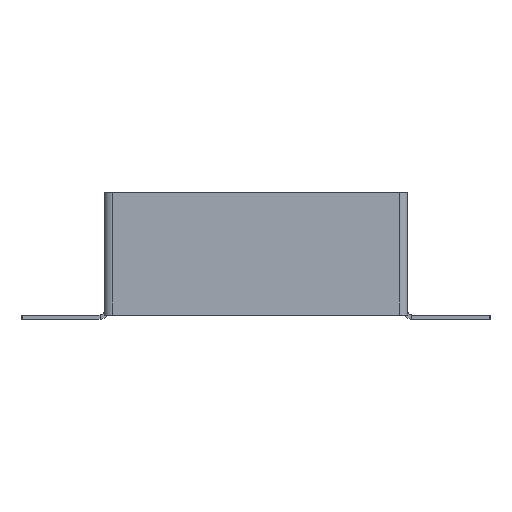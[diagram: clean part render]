
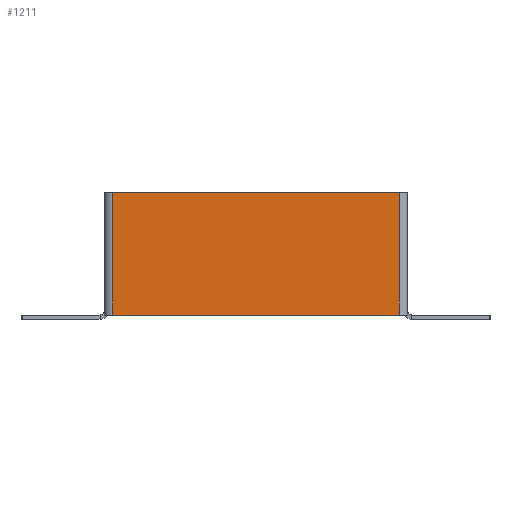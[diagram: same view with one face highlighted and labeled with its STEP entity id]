
A CAD part, front view. The second image highlights one B-rep face of the part: STEP entity #1211.
In plain terms, the highlighted planar face has unit normal (0, -1, 0).
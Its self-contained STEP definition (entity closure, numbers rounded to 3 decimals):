
#148 = AXIS2_PLACEMENT_3D ( 'NONE', #4789, #8238, #3958 ) ;
#1200 = CARTESIAN_POINT ( 'NONE',  ( 68., -2., -58. ) ) ;
#1211 = ADVANCED_FACE ( 'NONE', ( #4407 ), #3245, .F. ) ;
#1270 = CARTESIAN_POINT ( 'NONE',  ( -68., -2., -58. ) ) ;
#1394 = EDGE_CURVE ( 'NONE', #6096, #4338, #2495, .T. ) ;
#1729 = VERTEX_POINT ( 'NONE', #5769 ) ;
#1792 = LINE ( 'NONE', #6799, #6250 ) ;
#2003 = ORIENTED_EDGE ( 'NONE', *, *, #3075, .T. ) ;
#2495 = LINE ( 'NONE', #7109, #6290 ) ;
#3075 = EDGE_CURVE ( 'NONE', #6096, #5180, #3937, .T. ) ;
#3245 = PLANE ( 'NONE',  #148 ) ;
#3937 = LINE ( 'NONE', #1200, #5855 ) ;
#3958 = DIRECTION ( 'NONE',  ( 0., 0., 1. ) ) ;
#4003 = DIRECTION ( 'NONE',  ( 0., 0., 1. ) ) ;
#4037 = LINE ( 'NONE', #5163, #8951 ) ;
#4047 = CARTESIAN_POINT ( 'NONE',  ( 68., -2., -58. ) ) ;
#4338 = VERTEX_POINT ( 'NONE', #1270 ) ;
#4407 = FACE_OUTER_BOUND ( 'NONE', #8865, .T. ) ;
#4789 = CARTESIAN_POINT ( 'NONE',  ( 0., -2., 0. ) ) ;
#5004 = ORIENTED_EDGE ( 'NONE', *, *, #8116, .T. ) ;
#5050 = DIRECTION ( 'NONE',  ( -1., 0., 0. ) ) ;
#5163 = CARTESIAN_POINT ( 'NONE',  ( -68., -2., 0. ) ) ;
#5180 = VERTEX_POINT ( 'NONE', #6303 ) ;
#5287 = ORIENTED_EDGE ( 'NONE', *, *, #1394, .F. ) ;
#5769 = CARTESIAN_POINT ( 'NONE',  ( -68., -2., 0. ) ) ;
#5855 = VECTOR ( 'NONE', #4003, 1000. ) ;
#6096 = VERTEX_POINT ( 'NONE', #4047 ) ;
#6250 = VECTOR ( 'NONE', #7524, 1000. ) ;
#6290 = VECTOR ( 'NONE', #5050, 1000. ) ;
#6303 = CARTESIAN_POINT ( 'NONE',  ( 68., -2., 0. ) ) ;
#6799 = CARTESIAN_POINT ( 'NONE',  ( -70., -2., 0. ) ) ;
#7109 = CARTESIAN_POINT ( 'NONE',  ( -70., -2., -58. ) ) ;
#7519 = ORIENTED_EDGE ( 'NONE', *, *, #8702, .F. ) ;
#7524 = DIRECTION ( 'NONE',  ( 1., 0., 0. ) ) ;
#7990 = DIRECTION ( 'NONE',  ( 0., 0., -1. ) ) ;
#8116 = EDGE_CURVE ( 'NONE', #1729, #4338, #4037, .T. ) ;
#8238 = DIRECTION ( 'NONE',  ( 0., 1., 0. ) ) ;
#8702 = EDGE_CURVE ( 'NONE', #1729, #5180, #1792, .T. ) ;
#8865 = EDGE_LOOP ( 'NONE', ( #5004, #5287, #2003, #7519 ) ) ;
#8951 = VECTOR ( 'NONE', #7990, 1000. ) ;
